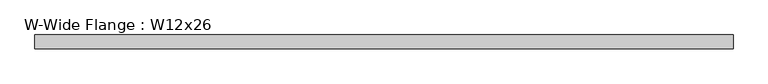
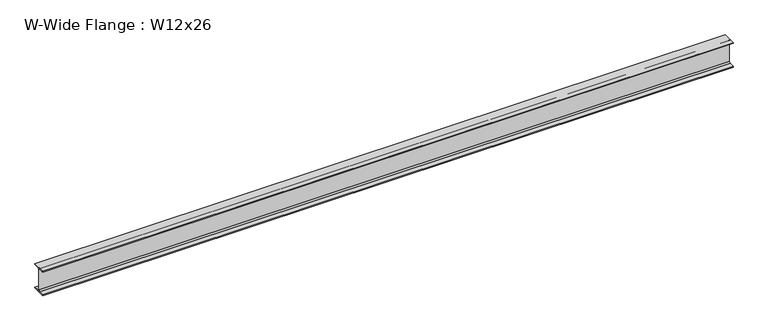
"""IFC4 building model written with IfcOpenShell, lengths in millimetres: beam geometry, W-Wide Flange : W12x26."""

import ifcopenshell
import ifcopenshell.guid

model = None  # the IFC model being written
_history = None  # IfcOwnerHistory: only IFC2X3 demands one
_inside = {}  # id of a spatial element -> (the spatial element, [elements in it])
_under = {}  # id of a project, library or spatial element -> (it, [spatial elements below it])
_declared = {}  # id of a project -> (the project, [libraries it declares])
_typed = {}  # id of a type object -> (the type object, [elements of that type])
_made_of = {}  # id of a material, layer set ... -> (it, [elements and type objects made of it])


def new_model(schema):
    """Start an empty IFC model of exactly this schema.

    Asked for "IFC4X3", IfcOpenShell would pick the latest addendum, in which some entities
    have other attributes; the version numbers below select the first issue.
    IFC2X3 requires an IfcOwnerHistory on every rooted entity: one is made here for all.
    """
    global model, _history
    if schema == "IFC4X3":
        model = ifcopenshell.file(schema_version=(4, 3, 0, 0))
    else:
        model = ifcopenshell.file(schema=schema)
    _inside.clear()
    _under.clear()
    _declared.clear()
    _typed.clear()
    _made_of.clear()
    _history = None
    if model.schema == "IFC2X3":
        org = make("IfcOrganization", Name="unknown")
        user = make(
            "IfcPersonAndOrganization",
            ThePerson=make("IfcPerson", FamilyName="unknown"),
            TheOrganization=org,
        )
        app = make(
            "IfcApplication",
            ApplicationDeveloper=org,
            Version="unknown",
            ApplicationFullName="unknown",
            ApplicationIdentifier="unknown",
        )
        _history = make(
            "IfcOwnerHistory",
            OwningUser=user,
            OwningApplication=app,
            ChangeAction="ADDED",
            CreationDate=0,
        )
    return model


def make(cls, **values):
    """One entity of the class cls with the attributes given. An attribute that is None is left unset."""
    return model.create_entity(
        cls, **{name: value for name, value in values.items() if value is not None}
    )


def rooted(cls, **values):
    """An entity with a GlobalId (a new one), such as an element, a storey or a relation."""
    return make(cls, GlobalId=ifcopenshell.guid.new(), OwnerHistory=_history, **values)


def si_unit(unit_type, name, prefix=None):
    """IfcSIUnit, for example si_unit("LENGTHUNIT", "METRE", prefix="MILLI")."""
    return make("IfcSIUnit", UnitType=unit_type, Prefix=prefix, Name=name)


def assignment(units):
    """IfcUnitAssignment: the units of a project."""
    return None if units is None else make("IfcUnitAssignment", Units=units)


def point(xyz):
    """IfcCartesianPoint."""
    return None if xyz is None else make("IfcCartesianPoint", Coordinates=xyz)


def direction(xyz):
    """IfcDirection."""
    return None if xyz is None else make("IfcDirection", DirectionRatios=xyz)


def frame(location, z_axis=None, x_axis=None):
    """IfcAxis2Placement3D, a coordinate frame: its origin and axes. An axis left out is left unset."""
    return make(
        "IfcAxis2Placement3D",
        Location=point(location),
        Axis=direction(z_axis),
        RefDirection=direction(x_axis),
    )


def frame_2d(location, x_axis=None):
    """IfcAxis2Placement2D, a coordinate frame in the plane: its origin and x axis."""
    return make(
        "IfcAxis2Placement2D", Location=point(location), RefDirection=direction(x_axis)
    )


def origin():
    """The frame at (0, 0, 0) with its axes left unset."""
    return frame((0.0, 0.0, 0.0))


def place(relative_to, where):
    """IfcLocalPlacement: puts the frame where relative to a parent placement (None: the world)."""
    return make(
        "IfcLocalPlacement", PlacementRelTo=relative_to, RelativePlacement=where
    )


def context(
    kind, dimensions, precision=None, world=None, true_north=None, identifier=None
):
    """IfcGeometricRepresentationContext, for example the 3D "Model" context."""
    return make(
        "IfcGeometricRepresentationContext",
        ContextIdentifier=identifier,
        ContextType=kind,
        CoordinateSpaceDimension=dimensions,
        Precision=precision,
        WorldCoordinateSystem=world,
        TrueNorth=true_north,
    )


def project(units=None, contexts=None):
    """IfcProject with its units and contexts."""
    return rooted(
        "IfcProject",
        Name="project",
        RepresentationContexts=contexts,
        UnitsInContext=assignment(units),
    )


def spatial(cls, under=None, at=None, **own):
    """A site, building, storey or space (cls), placed at a placement, below another one or the project."""
    s = rooted(cls, ObjectPlacement=at, **own)
    if under is not None:
        _under.setdefault(under.id(), (under, []))[1].append(s)
    return s


def polyline(points):
    """IfcPolyline through the points."""
    return make("IfcPolyline", Points=[point(p) for p in points])


def circle_curve(where, radius):
    """IfcCircle in the frame where."""
    return make("IfcCircle", Position=where, Radius=radius)


def trimmed(basis, trim1, trim2, sense, master):
    """IfcTrimmedCurve: the piece of a basis curve between two trims."""
    return make(
        "IfcTrimmedCurve",
        BasisCurve=basis,
        Trim1=trim1,
        Trim2=trim2,
        SenseAgreement=sense,
        MasterRepresentation=master,
    )


def segment(curve, same_sense, transition):
    """IfcCompositeCurveSegment."""
    return make(
        "IfcCompositeCurveSegment",
        Transition=transition,
        SameSense=same_sense,
        ParentCurve=curve,
    )


def composite_curve(segments, self_intersect=None):
    """IfcCompositeCurve: segments joined end to end."""
    return make("IfcCompositeCurve", Segments=segments, SelfIntersect=self_intersect)


def outline(outer, holes=None, kind="AREA"):
    """IfcArbitraryClosedProfileDef: a profile drawn as a closed curve; with holes, ...WithVoids."""
    if holes is None:
        return make("IfcArbitraryClosedProfileDef", ProfileType=kind, OuterCurve=outer)
    return make(
        "IfcArbitraryProfileDefWithVoids",
        ProfileType=kind,
        OuterCurve=outer,
        InnerCurves=holes,
    )


def extrude(swept, where, along, depth):
    """IfcExtrudedAreaSolid: the profile swept, set in the frame where, extruded along a direction by depth."""
    return make(
        "IfcExtrudedAreaSolid",
        SweptArea=swept,
        Position=where,
        ExtrudedDirection=direction(along),
        Depth=depth,
    )


def shape(context_of_items, identifier, shape_type, items):
    """IfcShapeRepresentation: the items that make up one representation, for example the "Body"."""
    return make(
        "IfcShapeRepresentation",
        ContextOfItems=context_of_items,
        RepresentationIdentifier=identifier,
        RepresentationType=shape_type,
        Items=items,
    )


def source(mapping_origin, context_of_items, identifier, shape_type, items):
    """IfcRepresentationMap: a shape defined once, which mapped items show again and again."""
    return make(
        "IfcRepresentationMap",
        MappingOrigin=mapping_origin,
        MappedRepresentation=shape(context_of_items, identifier, shape_type, items),
    )


def transform(
    local_origin,
    x_axis=None,
    y_axis=None,
    z_axis=None,
    scale=None,
    scale2=None,
    scale3=None,
    uniform=True,
):
    """IfcCartesianTransformationOperator3D, or its non-uniform kind. x_axis, y_axis, z_axis: its Axis1, 2, 3."""
    if uniform:
        return make(
            "IfcCartesianTransformationOperator3D",
            Axis1=direction(x_axis),
            Axis2=direction(y_axis),
            LocalOrigin=point(local_origin),
            Scale=scale,
            Axis3=direction(z_axis),
        )
    return make(
        "IfcCartesianTransformationOperator3DnonUniform",
        Axis1=direction(x_axis),
        Axis2=direction(y_axis),
        LocalOrigin=point(local_origin),
        Scale=scale,
        Axis3=direction(z_axis),
        Scale2=scale2,
        Scale3=scale3,
    )


def mapped(mapping_source, mapping_target):
    """IfcMappedItem: shows the shape of a source again, moved by a transform."""
    return make(
        "IfcMappedItem", MappingSource=mapping_source, MappingTarget=mapping_target
    )


def made_of(thing, what):
    """Note that an element or type object is made of a material, layer set ...; save() writes the relation."""
    if what is not None:
        _made_of.setdefault(what.id(), (what, []))[1].append(thing)
    return thing


def element(
    cls,
    number,
    at=None,
    inside=None,
    cuts=None,
    type_object=None,
    material=None,
    context=None,
    identifier="Body",
    shape_type=None,
    held_by="IfcProductDefinitionShape",
    body=None,
    shapes=None,
    **own,
):
    """One element of the class cls, such as IfcWall. Its Tag is "e" and its number.

    at: its placement. inside: the storey or other place that contains it. cuts: it is an
    opening in that element (IfcRelVoidsElement). A single representation is given by context,
    identifier, shape_type and body (its items); several are given by shapes. held_by: the class
    of the entity that holds the representations. save() writes the other relations.
    """
    e = rooted(cls, Tag="e%d" % number, ObjectPlacement=at, **own)
    if body is not None:
        shapes = [shape(context, identifier, shape_type, body)]
    if shapes is not None:
        e.Representation = make(held_by, Representations=shapes)
    if inside is not None:
        _inside.setdefault(inside.id(), (inside, []))[1].append(e)
    if cuts is not None:
        rooted(
            "IfcRelVoidsElement", RelatingBuildingElement=cuts, RelatedOpeningElement=e
        )
    if type_object is not None:
        _typed.setdefault(type_object.id(), (type_object, []))[1].append(e)
    return made_of(e, material)


def aggregate(whole, parts):
    """IfcRelAggregates: a whole, such as a stair, and the parts it consists of."""
    return rooted("IfcRelAggregates", RelatingObject=whole, RelatedObjects=parts)


def save(model, path):
    """Write the relations noted so far, then the file.

    IfcRelAggregates (storeys below a building ...), IfcRelContainedInSpatialStructure (elements
    in a storey), IfcRelDefinesByType, IfcRelAssociatesMaterial and IfcRelDeclares: one each for
    every whole, place, type object, material and project.
    """
    for whole, parts in _under.values():
        aggregate(whole, parts)
    for where, things in _inside.values():
        rooted(
            "IfcRelContainedInSpatialStructure",
            RelatedElements=things,
            RelatingStructure=where,
        )
    for kind, things in _typed.values():
        rooted("IfcRelDefinesByType", RelatedObjects=things, RelatingType=kind)
    for what, things in _made_of.values():
        rooted("IfcRelAssociatesMaterial", RelatedObjects=things, RelatingMaterial=what)
    for by, libraries in _declared.values():
        rooted("IfcRelDeclares", RelatingContext=by, RelatedDefinitions=libraries)
    model.write(path)


def w_wide_flange_w12x26_58258d12(model_context):
    return source(origin(), model_context, "Body", "SweptSolid", [
        extrude(outline(composite_curve([segment(polyline([(82.423, -145.288), (82.423, -154.94), (-82.423, -154.94), (-82.423, -145.288), (-20.2565, -145.288)]), True, "CONTINUOUS"), segment(trimmed(circle_curve(frame_2d((-20.2565, -127.9525)), 17.3355), [point((-20.2565, -145.288))], [point((-2.921, -127.9525))], True, "CARTESIAN"), True, "CONTINUOUS"), segment(polyline([(-2.921, -127.9525), (-2.921, 127.9525)]), True, "CONTINUOUS"), segment(trimmed(circle_curve(frame_2d((-20.2565, 127.9525)), 17.3355), [point((-2.921, 127.9525))], [point((-20.2565, 145.288))], True, "CARTESIAN"), True, "CONTINUOUS"), segment(polyline([(-20.2565, 145.288), (-82.423, 145.288), (-82.423, 154.94), (82.423, 154.94), (82.423, 145.288), (20.2565, 145.288)]), True, "CONTINUOUS"), segment(trimmed(circle_curve(frame_2d((20.2565, 127.9525)), 17.3355), [point((20.2565, 145.288))], [point((2.921, 127.9525))], True, "CARTESIAN"), True, "CONTINUOUS"), segment(polyline([(2.921, 127.9525), (2.921, -127.9525)]), True, "CONTINUOUS"), segment(trimmed(circle_curve(frame_2d((20.2565, -127.9525)), 17.3355), [point((2.921, -127.9525))], [point((20.2565, -145.288))], True, "CARTESIAN"), True, "CONTINUOUS"), segment(polyline([(20.2565, -145.288), (82.423, -145.288)]), True, "CONTINUOUS")], self_intersect=False)), frame((-4279.8999994, 0.0, 0.0), z_axis=(1.0, 0.0, 0.0), x_axis=(0.0, 1.0, 0.0)), (0.0, 0.0, 1.0), 8331.1999994),
    ])


if __name__ == "__main__":
    model = new_model("IFC4")
    model_context = context("Model", 3, world=origin())
    ifc_project = project(units=[si_unit("LENGTHUNIT", "METRE", prefix="MILLI")], contexts=[model_context])
    site = spatial("IfcSite", under=ifc_project)
    building = spatial("IfcBuilding", under=site)
    placement = place(None, origin())
    w_wide_flange_w12x26_shape = w_wide_flange_w12x26_58258d12(model_context)
    element("IfcBeam", 1, ObjectType="W-Wide Flange : W12x26", at=placement, inside=building, context=model_context, shape_type="MappedRepresentation", body=[
        mapped(w_wide_flange_w12x26_shape, transform((0.0, 0.0, 0.0), x_axis=(1.0, 0.0, 0.0), y_axis=(0.0, 1.0, 0.0), z_axis=(0.0, 0.0, 1.0))),
    ])
    save(model, "model.ifc")
